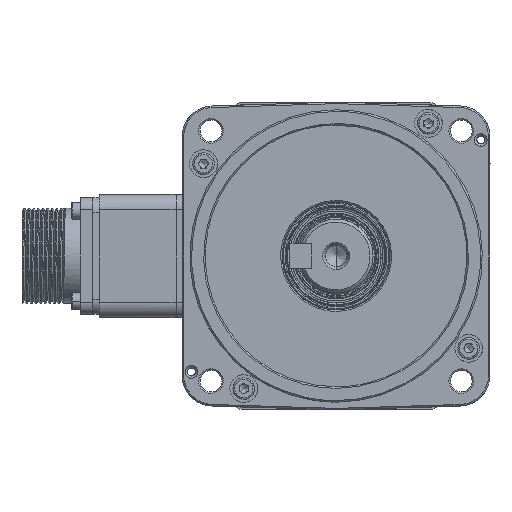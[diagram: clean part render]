
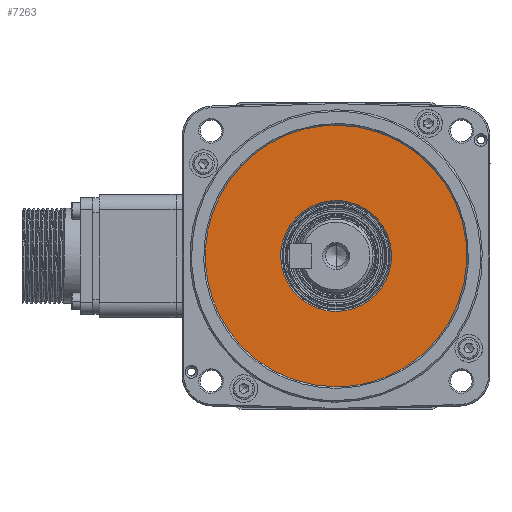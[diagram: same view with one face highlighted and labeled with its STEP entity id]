
A CAD part, left-side view. The second image highlights one B-rep face of the part: STEP entity #7263.
In plain terms, the highlighted free-form (B-spline) face has degree [1, 1] with [2, 2] control points.
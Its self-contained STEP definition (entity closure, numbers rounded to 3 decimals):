
#871 = ORIENTED_EDGE ( 'NONE', *, *, #63074, .F. ) ;
#2235 = CARTESIAN_POINT ( 'NONE',  ( 0., 18., 10.544 ) ) ;
#3212 = CARTESIAN_POINT ( 'NONE',  ( 0., 0., 42.5 ) ) ;
#4963 = CARTESIAN_POINT ( 'NONE',  ( 0., 0., 18. ) ) ;
#6729 = FACE_BOUND ( 'NONE', #44425, .T. ) ;
#7066 =( BOUNDED_CURVE ( )  B_SPLINE_CURVE ( 3, ( #29516, #48895, #34411, #4963 ),
 .UNSPECIFIED., .F., .F. ) 
 B_SPLINE_CURVE_WITH_KNOTS ( ( 4, 4 ),
 ( -3.142, 0. ),
 .UNSPECIFIED. ) 
 CURVE ( )  GEOMETRIC_REPRESENTATION_ITEM ( )  RATIONAL_B_SPLINE_CURVE ( ( 1., 0.333, 0.333, 1. ) ) 
 REPRESENTATION_ITEM ( '' )  );
#7262 = CARTESIAN_POINT ( 'NONE',  ( 0., 18., -10.544 ) ) ;
#7263 = ADVANCED_FACE ( 'NONE', ( #6729, #57379 ), #30426, .F. ) ;
#8093 = ORIENTED_EDGE ( 'NONE', *, *, #38581, .F. ) ;
#10650 = CARTESIAN_POINT ( 'NONE',  ( 0., 42.5, -24.896 ) ) ;
#11690 = VERTEX_POINT ( 'NONE', #51916 ) ;
#12236 = CARTESIAN_POINT ( 'NONE',  ( 0., 0., -18. ) ) ;
#12980 = EDGE_LOOP ( 'NONE', ( #38611, #27425 ) ) ;
#13184 = CARTESIAN_POINT ( 'NONE',  ( 0., -85., -42.5 ) ) ;
#15606 = CARTESIAN_POINT ( 'NONE',  ( 0., 42.5, 24.896 ) ) ;
#20564 = CARTESIAN_POINT ( 'NONE',  ( 0., 0., 42.5 ) ) ;
#22028 = EDGE_CURVE ( 'NONE', #56060, #53887, #56219, .T. ) ;
#24118 = CARTESIAN_POINT ( 'NONE',  ( 0., 0., -42.5 ) ) ;
#25092 = CARTESIAN_POINT ( 'NONE',  ( 0., 0., -42.5 ) ) ;
#25181 = CARTESIAN_POINT ( 'NONE',  ( 0., 0., 42.5 ) ) ;
#26626 = CARTESIAN_POINT ( 'NONE',  ( 0., 43.01, 43.01 ) ) ;
#26846 = CARTESIAN_POINT ( 'NONE',  ( 0., 0., 18. ) ) ;
#27425 = ORIENTED_EDGE ( 'NONE', *, *, #22028, .F. ) ;
#29476 =( BOUNDED_CURVE ( )  B_SPLINE_CURVE ( 3, ( #3212, #32688, #13184, #47393 ),
 .UNSPECIFIED., .F., .F. ) 
 B_SPLINE_CURVE_WITH_KNOTS ( ( 4, 4 ),
 ( -3.142, 0. ),
 .UNSPECIFIED. ) 
 CURVE ( )  GEOMETRIC_REPRESENTATION_ITEM ( )  RATIONAL_B_SPLINE_CURVE ( ( 1., 0.333, 0.333, 1. ) ) 
 REPRESENTATION_ITEM ( '' )  );
#29516 = CARTESIAN_POINT ( 'NONE',  ( 0., 0., -18. ) ) ;
#30426 = B_SPLINE_SURFACE_WITH_KNOTS ( 'NONE', 1, 1, ( 
 ( #50985, #26626 ),
 ( #60907, #31517 ) ),
 .UNSPECIFIED., .F., .F., .F.,
 ( 2, 2 ),
 ( 2, 2 ),
 ( 0., 1. ),
 ( 0., 1. ),
 .UNSPECIFIED. ) ;
#31517 = CARTESIAN_POINT ( 'NONE',  ( 0., 43.01, -43.01 ) ) ;
#32129 = EDGE_CURVE ( 'NONE', #53887, #56060, #29476, .T. ) ;
#32688 = CARTESIAN_POINT ( 'NONE',  ( 0., -85., 42.5 ) ) ;
#34411 = CARTESIAN_POINT ( 'NONE',  ( 0., -36., 18. ) ) ;
#35535 = CARTESIAN_POINT ( 'NONE',  ( 0., 0., -18. ) ) ;
#36633 = CARTESIAN_POINT ( 'NONE',  ( 0., 18., 0. ) ) ;
#38581 = EDGE_CURVE ( 'NONE', #43156, #11690, #7066, .T. ) ;
#38611 = ORIENTED_EDGE ( 'NONE', *, *, #32129, .F. ) ;
#41334 = CARTESIAN_POINT ( 'NONE',  ( 0., 10.544, 18. ) ) ;
#41540 = CARTESIAN_POINT ( 'NONE',  ( 0., 10.544, -18. ) ) ;
#43156 = VERTEX_POINT ( 'NONE', #35535 ) ;
#44425 = EDGE_LOOP ( 'NONE', ( #871, #8093 ) ) ;
#44900 = CARTESIAN_POINT ( 'NONE',  ( 0., 42.5, 0. ) ) ;
#47393 = CARTESIAN_POINT ( 'NONE',  ( 0., 0., -42.5 ) ) ;
#48895 = CARTESIAN_POINT ( 'NONE',  ( 0., -36., -18. ) ) ;
#49850 = CARTESIAN_POINT ( 'NONE',  ( 0., 24.896, 42.5 ) ) ;
#50985 = CARTESIAN_POINT ( 'NONE',  ( 0., -43.01, 43.01 ) ) ;
#51916 = CARTESIAN_POINT ( 'NONE',  ( 0., 0., 18. ) ) ;
#53887 = VERTEX_POINT ( 'NONE', #25181 ) ;
#54393 = CARTESIAN_POINT ( 'NONE',  ( 0., 24.896, -42.5 ) ) ;
#56060 = VERTEX_POINT ( 'NONE', #24118 ) ;
#56219 =( BOUNDED_CURVE ( )  B_SPLINE_CURVE ( 3, ( #25092, #54393, #10650, #44900, #15606, #49850, #20564 ),
 .UNSPECIFIED., .F., .T. ) 
 B_SPLINE_CURVE_WITH_KNOTS ( ( 4, 3, 4 ),
 ( -3.142, -1.571, 0. ),
 .UNSPECIFIED. ) 
 CURVE ( )  GEOMETRIC_REPRESENTATION_ITEM ( )  RATIONAL_B_SPLINE_CURVE ( ( 1., 0.805, 0.805, 1., 0.805, 0.805, 1. ) ) 
 REPRESENTATION_ITEM ( '' )  );
#57379 = FACE_OUTER_BOUND ( 'NONE', #12980, .T. ) ;
#60907 = CARTESIAN_POINT ( 'NONE',  ( 0., -43.01, -43.01 ) ) ;
#61574 =( BOUNDED_CURVE ( )  B_SPLINE_CURVE ( 3, ( #26846, #41334, #2235, #36633, #7262, #41540, #12236 ),
 .UNSPECIFIED., .F., .F. ) 
 B_SPLINE_CURVE_WITH_KNOTS ( ( 4, 3, 4 ),
 ( -3.142, -1.571, 0. ),
 .UNSPECIFIED. ) 
 CURVE ( )  GEOMETRIC_REPRESENTATION_ITEM ( )  RATIONAL_B_SPLINE_CURVE ( ( 1., 0.805, 0.805, 1., 0.805, 0.805, 1. ) ) 
 REPRESENTATION_ITEM ( '' )  );
#63074 = EDGE_CURVE ( 'NONE', #11690, #43156, #61574, .T. ) ;
